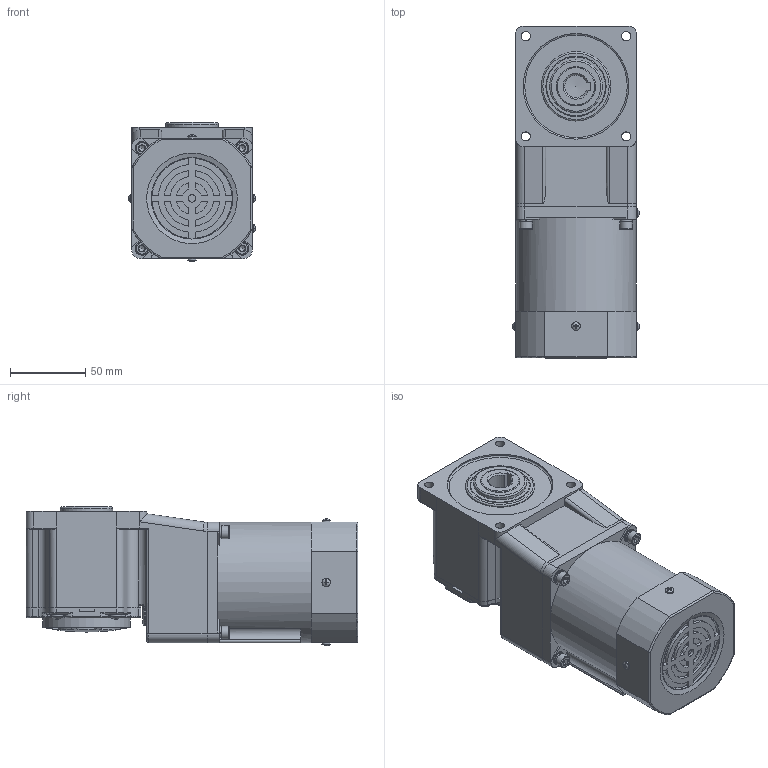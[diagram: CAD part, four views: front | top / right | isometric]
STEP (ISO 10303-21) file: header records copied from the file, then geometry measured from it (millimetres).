
FILE_DESCRIPTION(/* description */ (''),/* implementation_level */ '2;1');
FILE_NAME(/* name */ '80+中空直角-阻尼风叶-25W.stp',/* time_stamp */ '2022-09-27T10:29:00+08:00',/* author */ (''),/* organization */ (''),/* preprocessor_version */ 'ST-DEVELOPER v16.7',/* originating_system */ 'SIEMENS PLM Software NX 1899',/* authorisation */ '');
FILE_SCHEMA (('AP203_CONFIGURATION_CONTROLLED_3D_DESIGN_OF_MECHANICAL_PARTS_AND_ASSEMBLIES_MIM_LF { 1 0 10303 403 2 1 2}'));
Length unit declared in the file: millimetre
Products named in the file (1): yf1815905F60ugic
Bounding box: 84.18 x 220 x 92.59 mm (x, y, z)
Volume: 1208199.3 mm3; surface area: 122465.3 mm2
Topology: 16 solids, 16 shells, 804 faces, 1886 edges, 1165 vertices
Faces by surface type: plane 426, cylinder 238, torus 63, cone 49, bspline 16, sphere 12
Full cylindrical faces by diameter (mm): 2.5 x2, 3.5 x2, 4.2 x4, 4.826 x4, 5 x9, 5.3 x4, 5.6 x5, 6 x8, 8 x4, 8.5 x4, 9 x4, 25 x1, 26 x2, 35 x1, 40 x2, 40.5 x1, 46 x1, 52 x1, 52.5 x1, 56 x1, 58 x1, 70 x1, 76 x2, 80 x1
Entity records: 24391 total; most frequent: CARTESIAN_POINT 5312, DIRECTION 3782, ORIENTED_EDGE 3412, EDGE_CURVE 1706, AXIS2_PLACEMENT_3D 1466, VERTEX_POINT 1117, EDGE_LOOP 1009, LINE 850
